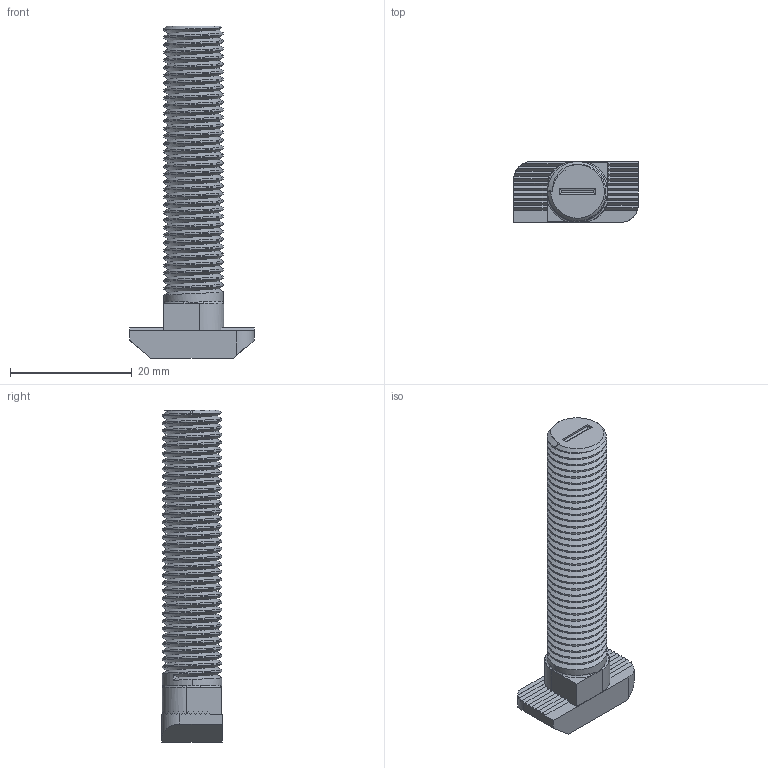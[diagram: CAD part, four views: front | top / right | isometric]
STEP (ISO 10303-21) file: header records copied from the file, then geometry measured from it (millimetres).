
FILE_DESCRIPTION (( 'STEP AP214' ), '1' );
FILE_NAME ('5171.STEP', '2017-08-09T08:00:56', ( '' ), ( '' ), 'SwSTEP 2.0', 'SolidWorks 2014', '' );
FILE_SCHEMA (( 'AUTOMOTIVE_DESIGN' ));
Length unit declared in the file: millimetre
Products named in the file (2): 5171
Bounding box: 20.5 x 10 x 54.5 mm (x, y, z)
Volume: 4262.8 mm3; surface area: 3036.8 mm2
Topology: 1 solids, 1 shells, 159 faces, 457 edges, 298 vertices
Faces by surface type: cylinder 79, plane 63, bspline 10, torus 4, cone 3
Entity records: 9815 total; most frequent: CARTESIAN_POINT 6215, ORIENTED_EDGE 904, DIRECTION 585, EDGE_CURVE 452, VERTEX_POINT 296, LINE 225, VECTOR 225, AXIS2_PLACEMENT_3D 180
